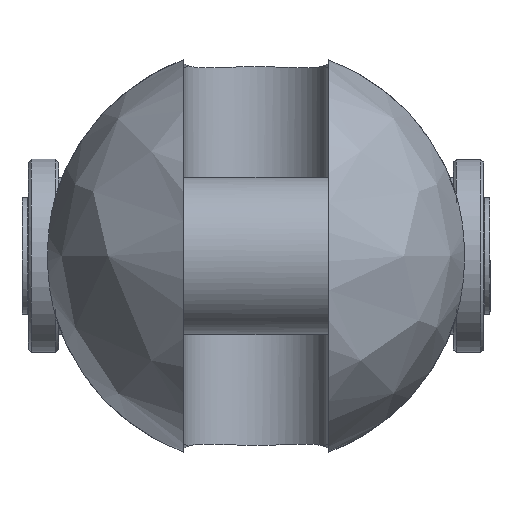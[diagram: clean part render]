
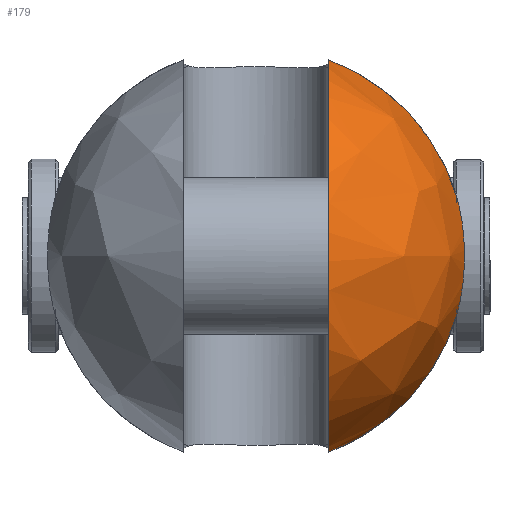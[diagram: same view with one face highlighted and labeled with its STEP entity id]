
A CAD part, left-side view. The second image highlights one B-rep face of the part: STEP entity #179.
In plain terms, the highlighted free-form (B-spline) face has degree [2, 2] with [9, 5] control points.
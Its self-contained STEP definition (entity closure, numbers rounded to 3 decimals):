
#179=ADVANCED_FACE('',(#321),#2437,.T.);
#321=FACE_OUTER_BOUND('',#482,.T.);
#482=EDGE_LOOP('',(#1203,#1204,#1205,#1206));
#1203=ORIENTED_EDGE('',*,*,#1588,.T.);
#1204=ORIENTED_EDGE('',*,*,#1615,.F.);
#1205=ORIENTED_EDGE('',*,*,#1626,.T.);
#1206=ORIENTED_EDGE('',*,*,#1608,.F.);
#1588=EDGE_CURVE('',#2268,#2267,#2000,.T.);
#1608=EDGE_CURVE('',#2268,#2280,#2010,.T.);
#1615=EDGE_CURVE('',#2287,#2267,#2011,.T.);
#1626=EDGE_CURVE('',#2287,#2280,#1802,.T.);
#1802=B_SPLINE_CURVE_WITH_KNOTS('',3,(#6072,#6073,#6074,#6075,#6076,#6077,
#6078,#6079,#6080,#6081,#6082,#6083,#6084,#6085),.UNSPECIFIED.,.F.,.F.,
(4,2,2,2,2,2,4),(0.,1.521,5.952,10.382,
14.812,19.242,20.764),.UNSPECIFIED.);
#2000=(
BOUNDED_CURVE()
B_SPLINE_CURVE(2,(#5916,#5917,#5918,#5919,#5920),.UNSPECIFIED.,.F.,.F.)
B_SPLINE_CURVE_WITH_KNOTS((3,2,3),(-101.617,-50.809,
0.),.UNSPECIFIED.)
CURVE()
GEOMETRIC_REPRESENTATION_ITEM()
RATIONAL_B_SPLINE_CURVE((1.,0.707,1.,0.707,1.))
REPRESENTATION_ITEM('')
);
#2010=(
BOUNDED_CURVE()
B_SPLINE_CURVE(2,(#6010,#6011,#6012),.UNSPECIFIED.,.F.,.F.)
B_SPLINE_CURVE_WITH_KNOTS((3,3),(0.,32.162),.UNSPECIFIED.)
CURVE()
GEOMETRIC_REPRESENTATION_ITEM()
RATIONAL_B_SPLINE_CURVE((1.,0.893,1.))
REPRESENTATION_ITEM('')
);
#2011=(
BOUNDED_CURVE()
B_SPLINE_CURVE(2,(#6033,#6034,#6035),.UNSPECIFIED.,.F.,.F.)
B_SPLINE_CURVE_WITH_KNOTS((3,3),(0.,32.162),.UNSPECIFIED.)
CURVE()
GEOMETRIC_REPRESENTATION_ITEM()
RATIONAL_B_SPLINE_CURVE((1.,0.893,1.))
REPRESENTATION_ITEM('')
);
#2267=VERTEX_POINT('',#5800);
#2268=VERTEX_POINT('',#5801);
#2280=VERTEX_POINT('',#5813);
#2287=VERTEX_POINT('',#5820);
#2437=(
BOUNDED_SURFACE()
B_SPLINE_SURFACE(2,2,((#5514,#5515,#5516,#5517,#5518),(#5519,#5520,#5521,
#5522,#5523),(#5524,#5525,#5526,#5527,#5528),(#5529,#5530,#5531,#5532,#5533),
(#5534,#5535,#5536,#5537,#5538),(#5539,#5540,#5541,#5542,#5543),(#5544,
#5545,#5546,#5547,#5548),(#5549,#5550,#5551,#5552,#5553),(#5554,#5555,#5556,
#5557,#5558)),.UNSPECIFIED.,.T.,.F.,.F.)
B_SPLINE_SURFACE_WITH_KNOTS((3,2,2,2,3),(3,2,3),(0.,54.192,108.385,
162.577,216.77),(0.,54.192,108.385),
 .UNSPECIFIED.)
GEOMETRIC_REPRESENTATION_ITEM()
RATIONAL_B_SPLINE_SURFACE(((1.,0.707,1.,0.707,1.),
(0.707,0.5,0.707,0.5,0.707),(1.,0.707,
1.,0.707,1.),(0.707,0.5,0.707,0.5,0.707),
(1.,0.707,1.,0.707,1.),(0.707,0.5,0.707,
0.5,0.707),(1.,0.707,1.,0.707,1.),(0.707,
0.5,0.707,0.5,0.707),(1.,0.707,1.,0.707,
1.)))
REPRESENTATION_ITEM('')
SURFACE()
);
#5514=CARTESIAN_POINT('',(-48.5,0.,0.));
#5515=CARTESIAN_POINT('',(-48.5,34.5,0.));
#5516=CARTESIAN_POINT('',(-14.,34.5,0.));
#5517=CARTESIAN_POINT('',(20.5,34.5,0.));
#5518=CARTESIAN_POINT('',(20.5,0.,0.));
#5519=CARTESIAN_POINT('',(-48.5,0.,0.));
#5520=CARTESIAN_POINT('',(-48.5,34.5,34.5));
#5521=CARTESIAN_POINT('',(-14.,34.5,34.5));
#5522=CARTESIAN_POINT('',(20.5,34.5,34.5));
#5523=CARTESIAN_POINT('',(20.5,0.,0.));
#5524=CARTESIAN_POINT('',(-48.5,0.,0.));
#5525=CARTESIAN_POINT('',(-48.5,0.,34.5));
#5526=CARTESIAN_POINT('',(-14.,0.,34.5));
#5527=CARTESIAN_POINT('',(20.5,0.,34.5));
#5528=CARTESIAN_POINT('',(20.5,0.,0.));
#5529=CARTESIAN_POINT('',(-48.5,0.,0.));
#5530=CARTESIAN_POINT('',(-48.5,-34.5,34.5));
#5531=CARTESIAN_POINT('',(-14.,-34.5,34.5));
#5532=CARTESIAN_POINT('',(20.5,-34.5,34.5));
#5533=CARTESIAN_POINT('',(20.5,0.,0.));
#5534=CARTESIAN_POINT('',(-48.5,0.,0.));
#5535=CARTESIAN_POINT('',(-48.5,-34.5,0.));
#5536=CARTESIAN_POINT('',(-14.,-34.5,0.));
#5537=CARTESIAN_POINT('',(20.5,-34.5,0.));
#5538=CARTESIAN_POINT('',(20.5,0.,0.));
#5539=CARTESIAN_POINT('',(-48.5,0.,0.));
#5540=CARTESIAN_POINT('',(-48.5,-34.5,-34.5));
#5541=CARTESIAN_POINT('',(-14.,-34.5,-34.5));
#5542=CARTESIAN_POINT('',(20.5,-34.5,-34.5));
#5543=CARTESIAN_POINT('',(20.5,0.,0.));
#5544=CARTESIAN_POINT('',(-48.5,0.,0.));
#5545=CARTESIAN_POINT('',(-48.5,0.,-34.5));
#5546=CARTESIAN_POINT('',(-14.,0.,-34.5));
#5547=CARTESIAN_POINT('',(20.5,0.,-34.5));
#5548=CARTESIAN_POINT('',(20.5,0.,0.));
#5549=CARTESIAN_POINT('',(-48.5,0.,0.));
#5550=CARTESIAN_POINT('',(-48.5,34.5,-34.5));
#5551=CARTESIAN_POINT('',(-14.,34.5,-34.5));
#5552=CARTESIAN_POINT('',(20.5,34.5,-34.5));
#5553=CARTESIAN_POINT('',(20.5,0.,0.));
#5554=CARTESIAN_POINT('',(-48.5,0.,0.));
#5555=CARTESIAN_POINT('',(-48.5,34.5,0.));
#5556=CARTESIAN_POINT('',(-14.,34.5,0.));
#5557=CARTESIAN_POINT('',(20.5,34.5,0.));
#5558=CARTESIAN_POINT('',(20.5,0.,0.));
#5800=CARTESIAN_POINT('',(-14.,-12.,-32.346));
#5801=CARTESIAN_POINT('',(-14.,-12.,32.346));
#5813=CARTESIAN_POINT('',(-14.,-33.125,9.644));
#5820=CARTESIAN_POINT('',(-14.,-33.125,-9.644));
#5916=CARTESIAN_POINT('',(-14.,-12.,32.346));
#5917=CARTESIAN_POINT('',(-46.346,-12.,32.346));
#5918=CARTESIAN_POINT('',(-46.346,-12.,0.));
#5919=CARTESIAN_POINT('',(-46.346,-12.,-32.346));
#5920=CARTESIAN_POINT('',(-14.,-12.,-32.346));
#6010=CARTESIAN_POINT('',(-14.,-12.,32.346));
#6011=CARTESIAN_POINT('',(-14.,-28.273,26.309));
#6012=CARTESIAN_POINT('',(-14.,-33.125,9.644));
#6033=CARTESIAN_POINT('',(-14.,-33.125,-9.644));
#6034=CARTESIAN_POINT('',(-14.,-28.273,-26.309));
#6035=CARTESIAN_POINT('',(-14.,-12.,-32.346));
#6072=CARTESIAN_POINT('',(-14.,-33.125,-9.644));
#6073=CARTESIAN_POINT('',(-14.277,-33.242,-9.241));
#6074=CARTESIAN_POINT('',(-14.534,-33.35,-8.831));
#6075=CARTESIAN_POINT('',(-15.448,-33.732,-7.229));
#6076=CARTESIAN_POINT('',(-16.038,-33.976,-5.835));
#6077=CARTESIAN_POINT('',(-16.815,-34.294,-2.922));
#6078=CARTESIAN_POINT('',(-17.,-34.369,-1.402));
#6079=CARTESIAN_POINT('',(-17.,-34.369,1.402));
#6080=CARTESIAN_POINT('',(-16.815,-34.294,2.922));
#6081=CARTESIAN_POINT('',(-16.038,-33.976,5.835));
#6082=CARTESIAN_POINT('',(-15.448,-33.732,7.229));
#6083=CARTESIAN_POINT('',(-14.534,-33.35,8.831));
#6084=CARTESIAN_POINT('',(-14.277,-33.242,9.241));
#6085=CARTESIAN_POINT('',(-14.,-33.125,9.644));
